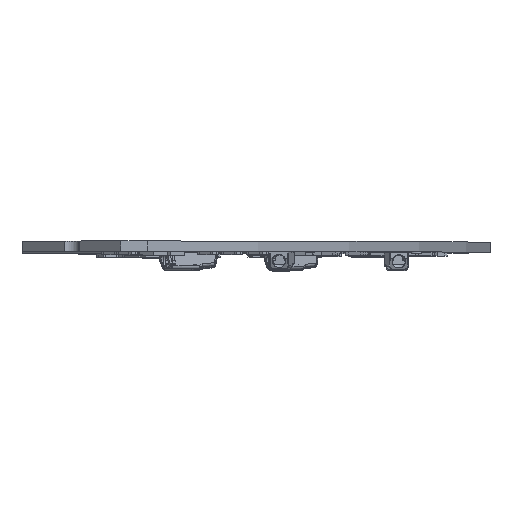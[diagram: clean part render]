
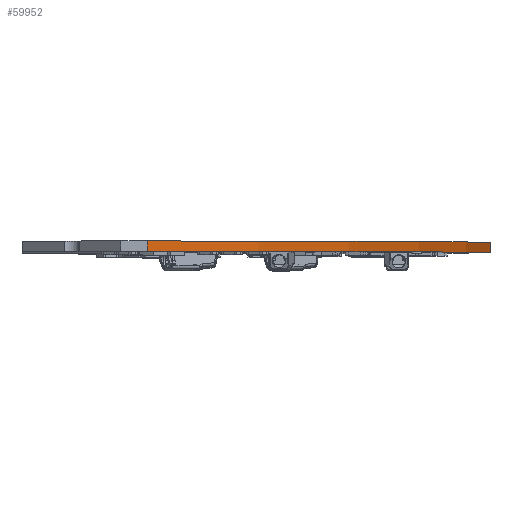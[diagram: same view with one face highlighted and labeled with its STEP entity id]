
A CAD part, top view. The second image highlights one B-rep face of the part: STEP entity #59952.
In plain terms, the highlighted cylindrical face has radius 194 mm (diameter 388 mm), a partial arc.
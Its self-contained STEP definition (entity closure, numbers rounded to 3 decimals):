
#486=CYLINDRICAL_SURFACE('',#62446,194.);
#1747=CIRCLE('',#62025,194.);
#1778=CIRCLE('',#62389,194.);
#4416=ORIENTED_EDGE('',*,*,#15019,.T.);
#4417=ORIENTED_EDGE('',*,*,#16064,.F.);
#4418=ORIENTED_EDGE('',*,*,#16022,.F.);
#4419=ORIENTED_EDGE('',*,*,#16065,.T.);
#15019=EDGE_CURVE('',#21342,#21341,#1747,.T.);
#16022=EDGE_CURVE('',#22036,#22037,#1778,.T.);
#16064=EDGE_CURVE('',#22037,#21341,#25810,.T.);
#16065=EDGE_CURVE('',#22036,#21342,#25811,.T.);
#21341=VERTEX_POINT('',#76316);
#21342=VERTEX_POINT('',#76318);
#22036=VERTEX_POINT('',#80867);
#22037=VERTEX_POINT('',#80869);
#25810=LINE('',#80972,#30586);
#25811=LINE('',#80974,#30587);
#30586=VECTOR('',#66446,1000.);
#30587=VECTOR('',#66449,1000.);
#35304=EDGE_LOOP('',(#4416,#4417,#4418,#4419));
#38130=FACE_BOUND('',#35304,.T.);
#59952=ADVANCED_FACE('',(#38130),#486,.T.);
#62025=AXIS2_PLACEMENT_3D('',#76317,#65312,#65313);
#62389=AXIS2_PLACEMENT_3D('',#80868,#66316,#66317);
#62446=AXIS2_PLACEMENT_3D('',#80973,#66447,#66448);
#65312=DIRECTION('',(0.,1.,0.));
#65313=DIRECTION('',(-1.,0.,0.));
#66316=DIRECTION('',(0.,1.,0.));
#66317=DIRECTION('',(-1.,0.,0.));
#66446=DIRECTION('',(0.,-1.,0.));
#66447=DIRECTION('',(0.,-1.,0.));
#66448=DIRECTION('',(0.,0.,-1.));
#66449=DIRECTION('',(0.,-1.,0.));
#76316=CARTESIAN_POINT('',(-17.317,0.,-134.704));
#76317=CARTESIAN_POINT('',(-156.927,0.,0.));
#76318=CARTESIAN_POINT('',(-17.317,0.,134.704));
#80867=CARTESIAN_POINT('',(-17.317,1.6,134.704));
#80868=CARTESIAN_POINT('',(-156.927,1.6,0.));
#80869=CARTESIAN_POINT('',(-17.317,1.6,-134.704));
#80972=CARTESIAN_POINT('',(-17.317,1.6,-134.704));
#80973=CARTESIAN_POINT('',(-156.927,1.6,0.));
#80974=CARTESIAN_POINT('',(-17.317,1.6,134.704));
